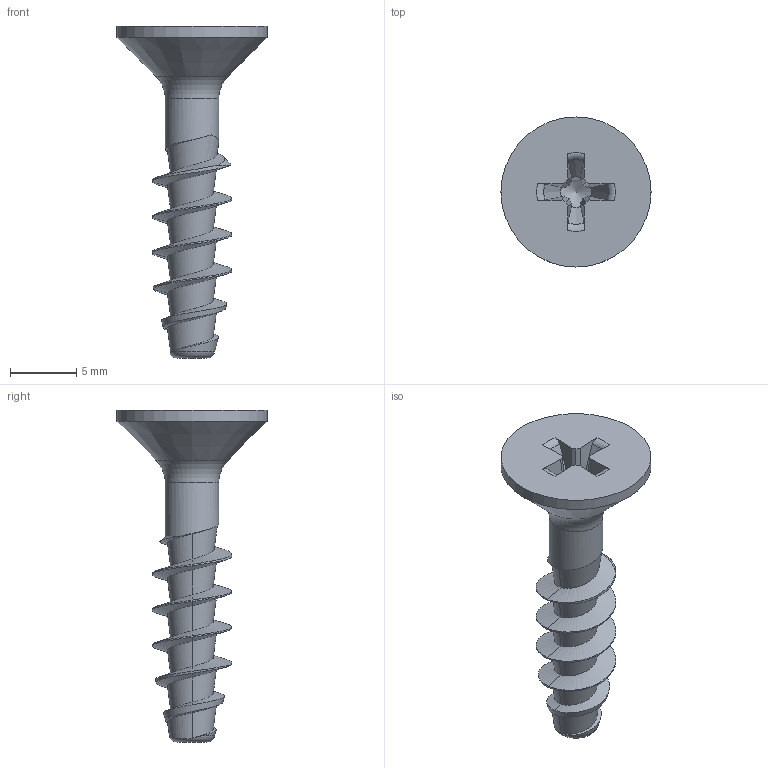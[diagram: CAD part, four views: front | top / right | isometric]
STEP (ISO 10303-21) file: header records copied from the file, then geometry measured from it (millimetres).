
FILE_DESCRIPTION(/* description */ (''),/* implementation_level */ '2;1');
FILE_NAME(/* name */ 'KN1033-STS-Neu-60x25-H2.step',/* time_stamp */ '2019-01-09T15:54:13+01:00',/* author */ (''),/* organization */ (''),/* preprocessor_version */ 'ST-DEVELOPER v16',/* originating_system */ 'SIEMENS PLM Software NX 10.0',/* authorisation */ '');
FILE_SCHEMA (('AUTOMOTIVE_DESIGN { 1 0 10303 214 3 1 1 1 }'));
Length unit declared in the file: millimetre
Products named in the file (1): KN1033-STS-Neu-60x25-H2
Bounding box: 11.3 x 11.3 x 25 mm (x, y, z)
Volume: 491.9 mm3; surface area: 673.6 mm2
Topology: 1 solids, 1 shells, 57 faces, 150 edges, 95 vertices
Faces by surface type: bspline 21, plane 18, cone 8, torus 6, cylinder 4
Full cylindrical faces by diameter (mm): 4.03 x1, 11.3 x1
Entity records: 3097 total; most frequent: CARTESIAN_POINT 1930, ORIENTED_EDGE 274, DIRECTION 160, EDGE_CURVE 137, VERTEX_POINT 90, B_SPLINE_CURVE_WITH_KNOTS 70, EDGE_LOOP 62, AXIS2_PLACEMENT_3D 57
